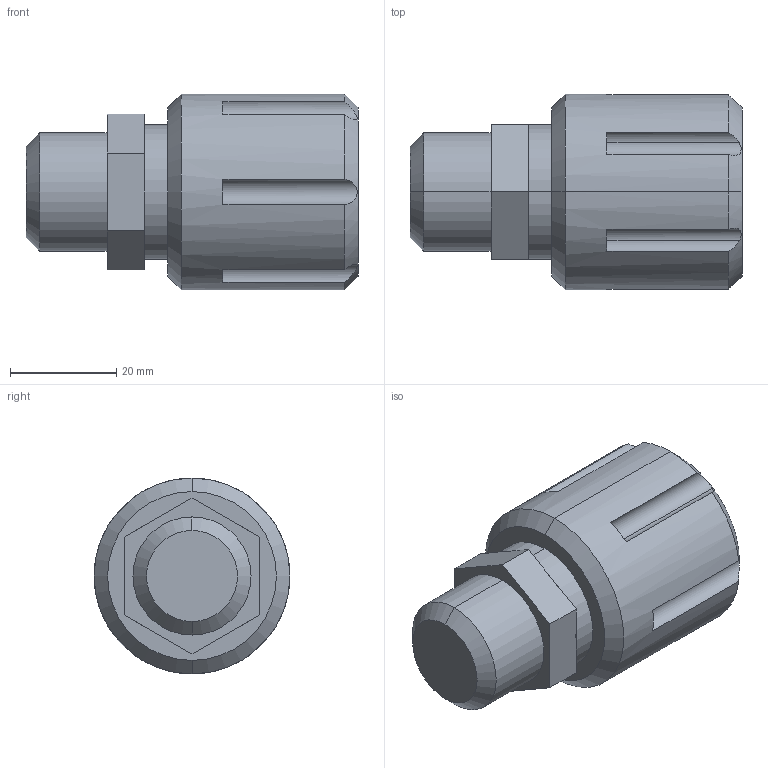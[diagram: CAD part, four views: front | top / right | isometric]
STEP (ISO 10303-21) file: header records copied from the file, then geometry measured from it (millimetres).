
FILE_DESCRIPTION (( 'STEP AP214' ), '1' );
FILE_NAME ('Fitting Flaretek Compatible 08.STEP', '2012-09-21T20:53:56', ( '' ), ( '' ), 'SwSTEP 2.0', 'SolidWorks 2012', '' );
FILE_SCHEMA (( 'AUTOMOTIVE_DESIGN' ));
Length unit declared in the file: inch
Products named in the file (1): Fitting Flaretek Compatible 08
Bounding box: 62.45 x 36.83 x 36.83 mm (x, y, z)
Volume: 45065.5 mm3; surface area: 8926.3 mm2
Topology: 1 solids, 1 shells, 45 faces, 108 edges, 68 vertices
Faces by surface type: plane 23, cylinder 16, cone 6
Entity records: 1758 total; most frequent: CARTESIAN_POINT 382, DIRECTION 240, ORIENTED_EDGE 216, EDGE_CURVE 108, AXIS2_PLACEMENT_3D 94, VERTEX_POINT 68, LINE 52, VECTOR 52
